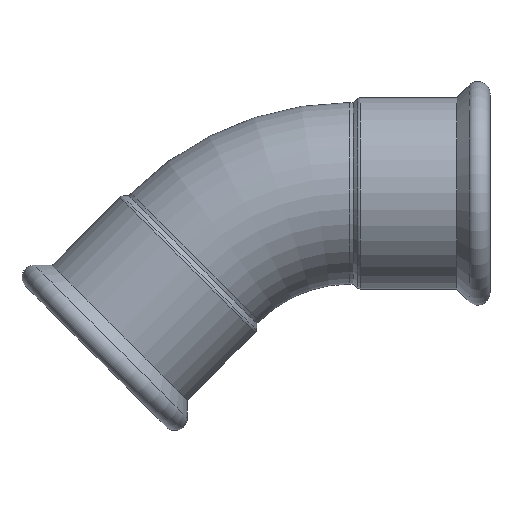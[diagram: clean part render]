
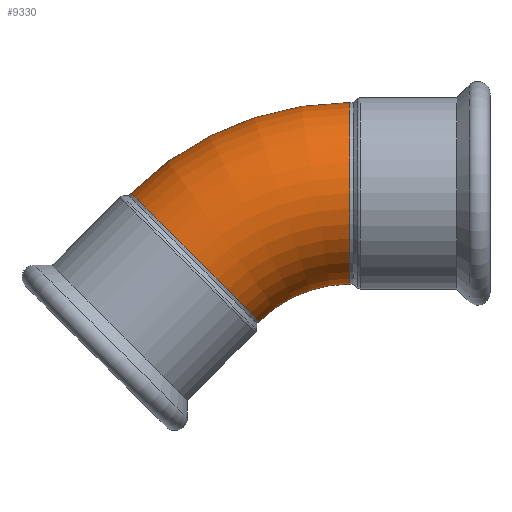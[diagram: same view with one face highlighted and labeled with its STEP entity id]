
A CAD part, top view. The second image highlights one B-rep face of the part: STEP entity #9330.
In plain terms, the highlighted toroidal (fillet/blend) face has major radius 107 mm and minor radius 44.45 mm.
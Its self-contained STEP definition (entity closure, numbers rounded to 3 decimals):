
#4650=CARTESIAN_POINT('',(2.321,-44.45,0.));
#4660=VERTEX_POINT('',#4650);
#4750=CARTESIAN_POINT('',(2.321,44.45,0.));
#4760=VERTEX_POINT('',#4750);
#6820=CARTESIAN_POINT('',(-104.77,0.091,
0.));
#6830=VERTEX_POINT('',#6820);
#6910=CARTESIAN_POINT('',(-41.909,-62.77,0.));
#6920=VERTEX_POINT('',#6910);
#6950=CARTESIAN_POINT('',(-73.34,-31.34,0.));
#6960=DIRECTION('',(-0.707,-0.707,0.));
#6970=DIRECTION('',(0.707,-0.707,0.));
#6980=AXIS2_PLACEMENT_3D('',#6950,#6960,#6970);
#6990=CIRCLE('',#6980,44.45);
#7090=CARTESIAN_POINT('',(2.321,-107.,0.));
#7100=DIRECTION('',(0.,0.,1.));
#7110=DIRECTION('',(0.,1.,0.));
#7120=AXIS2_PLACEMENT_3D('',#7090,#7100,#7110);
#7130=TOROIDAL_SURFACE('',#7120,107.,44.45);
#7150=CARTESIAN_POINT('',(2.321,-107.,0.));
#7160=DIRECTION('',(0.,0.,1.));
#7170=DIRECTION('',(0.,1.,0.));
#7180=AXIS2_PLACEMENT_3D('',#7150,#7160,#7170);
#7190=CIRCLE('',#7180,62.55);
#7200=EDGE_CURVE('',#4660,#6920,#7190,.T.);
#7230=CARTESIAN_POINT('',(2.321,-107.,0.));
#7240=DIRECTION('',(0.,0.,1.));
#7250=DIRECTION('',(0.,1.,0.));
#7260=AXIS2_PLACEMENT_3D('',#7230,#7240,#7250);
#7270=CIRCLE('',#7260,151.45);
#7280=EDGE_CURVE('',#4760,#6830,#7270,.T.);
#8790=EDGE_CURVE('',#6920,#6830,#6990,.T.);
#9210=ORIENTED_EDGE('',*,*,#8790,.F.);
#9220=ORIENTED_EDGE('',*,*,#7280,.T.);
#9230=CARTESIAN_POINT('',(2.321,0.,0.));
#9240=DIRECTION('',(-1.,0.,0.));
#9250=DIRECTION('',(0.,-1.,0.));
#9260=AXIS2_PLACEMENT_3D('',#9230,#9240,#9250);
#9270=CIRCLE('',#9260,44.45);
#9280=EDGE_CURVE('',#4660,#4760,#9270,.T.);
#9290=ORIENTED_EDGE('',*,*,#9280,.T.);
#9300=ORIENTED_EDGE('',*,*,#7200,.F.);
#9310=EDGE_LOOP('',(#9300,#9290,#9220,#9210));
#9320=FACE_OUTER_BOUND('',#9310,.T.);
#9330=ADVANCED_FACE('',(#9320),#7130,.T.);
